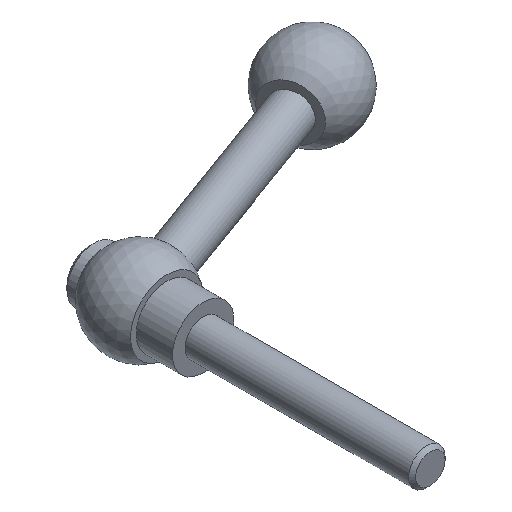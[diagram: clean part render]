
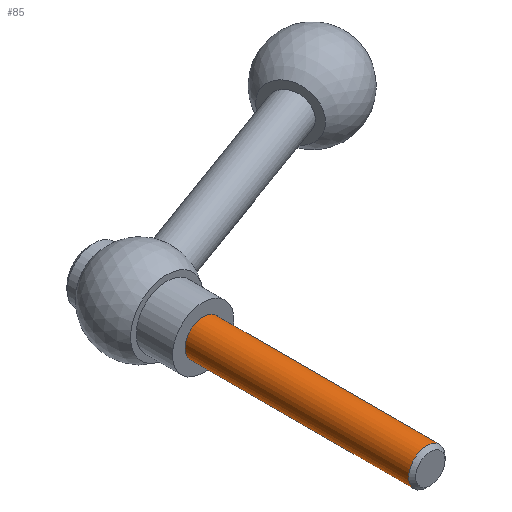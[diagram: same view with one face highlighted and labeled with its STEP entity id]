
A CAD part, isometric view. The second image highlights one B-rep face of the part: STEP entity #85.
In plain terms, the highlighted cylindrical face has radius 4 mm (diameter 8 mm), a full revolution.
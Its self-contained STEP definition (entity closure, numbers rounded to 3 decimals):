
#85 = ADVANCED_FACE( '', ( #118, #119 ), #120, .T. );
#118 = FACE_OUTER_BOUND( '', #156, .T. );
#119 = FACE_OUTER_BOUND( '', #157, .T. );
#120 = CYLINDRICAL_SURFACE( '', #158, 4. );
#156 = EDGE_LOOP( '', ( #214 ) );
#157 = EDGE_LOOP( '', ( #215 ) );
#158 = AXIS2_PLACEMENT_3D( '', #216, #217, #218 );
#214 = ORIENTED_EDGE( '', *, *, #240, .F. );
#215 = ORIENTED_EDGE( '', *, *, #239, .T. );
#216 = CARTESIAN_POINT( '', ( 0., -50., 0. ) );
#217 = DIRECTION( '', ( 0., 1., 0. ) );
#218 = DIRECTION( '', ( 0., 0., -1. ) );
#239 = EDGE_CURVE( '', #262, #262, #263, .T. );
#240 = EDGE_CURVE( '', #264, #264, #265, .T. );
#262 = VERTEX_POINT( '', #351 );
#263 = CIRCLE( '', #352, 4. );
#264 = VERTEX_POINT( '', #353 );
#265 = CIRCLE( '', #354, 4. );
#351 = CARTESIAN_POINT( '', ( 0., 0., -4. ) );
#352 = AXIS2_PLACEMENT_3D( '', #382, #383, #384 );
#353 = CARTESIAN_POINT( '', ( 0., -49.233, -4. ) );
#354 = AXIS2_PLACEMENT_3D( '', #385, #386, #387 );
#382 = CARTESIAN_POINT( '', ( 0., 0., 0. ) );
#383 = DIRECTION( '', ( 0., -1., 0. ) );
#384 = DIRECTION( '', ( 0., 0., -1. ) );
#385 = CARTESIAN_POINT( '', ( 0., -49.233, 0. ) );
#386 = DIRECTION( '', ( 0., -1., 0. ) );
#387 = DIRECTION( '', ( 0., 0., -1. ) );
